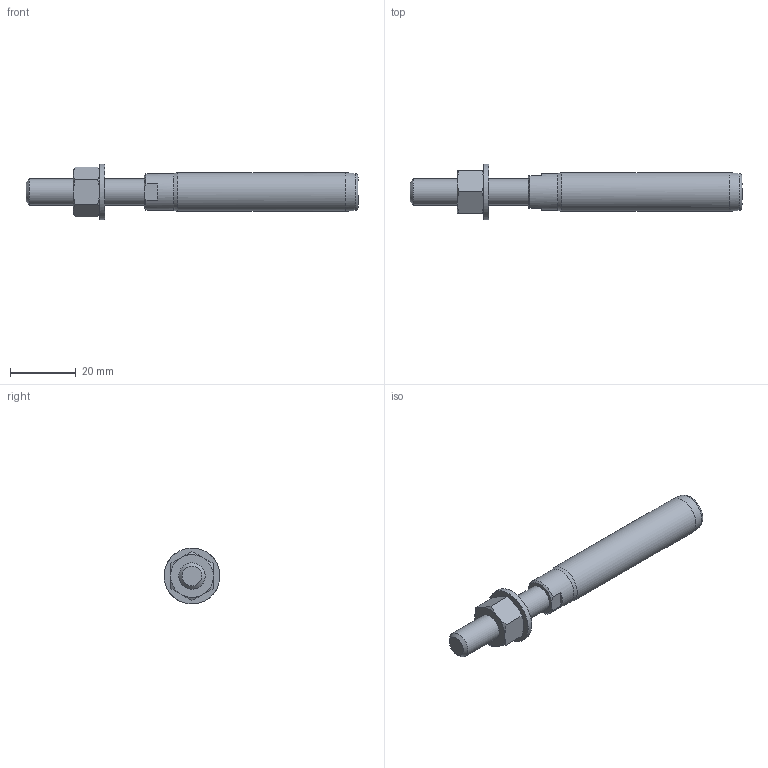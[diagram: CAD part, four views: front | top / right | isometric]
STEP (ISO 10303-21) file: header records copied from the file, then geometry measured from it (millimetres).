
FILE_DESCRIPTION(/* description */ (''),/* implementation_level */ '2;1');
FILE_NAME(/* name */ 'FLT 06_42CrMo4',/* time_stamp */ '2023-05-23T15:57:49+02:00',/* author */ (''),/* organization */ (''),/* preprocessor_version */ 'ST-DEVELOPER v16.5',/* originating_system */ 'Rhino 7.22',/* authorisation */ '');
FILE_SCHEMA (('CONFIG_CONTROL_DESIGN'));
Length unit declared in the file: millimetre
Products named in the file (1): Document
Bounding box: 101 x 17 x 16.98 mm (x, y, z)
Volume: 9904.6 mm3; surface area: 4646.6 mm2
Topology: 3 solids, 3 shells, 43 faces, 103 edges, 67 vertices
Faces by surface type: bspline 20, plane 17, cylinder 6
Full cylindrical faces by diameter (mm): 6.647 x1, 8 x1, 8.4 x1, 11.2 x1, 11.8 x1, 17 x1
Entity records: 1586 total; most frequent: CARTESIAN_POINT 881, ORIENTED_EDGE 206, EDGE_CURVE 103, VERTEX_POINT 67, EDGE_LOOP 48, ADVANCED_FACE 43, FACE_OUTER_BOUND 43, DIRECTION 27
